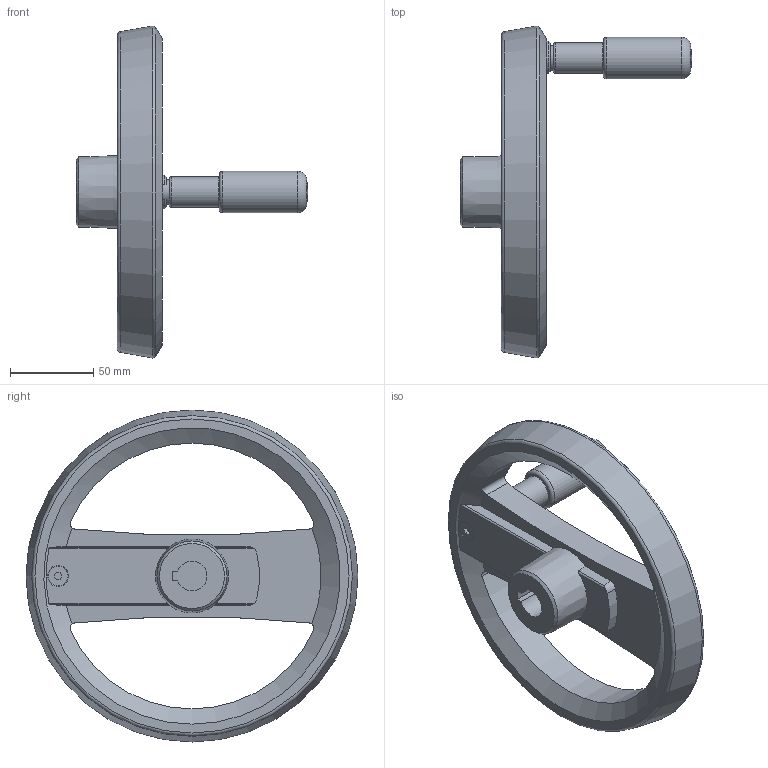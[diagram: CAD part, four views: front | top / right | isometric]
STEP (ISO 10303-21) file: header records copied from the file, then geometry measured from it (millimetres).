
FILE_DESCRIPTION( ( 'STEP AP203' ), '1' );
FILE_NAME( 'C:/Temp/Ganter_Step_05_03_2020/data/1_3/gn_924_7/gn_924_7_k/Handwheel with retractable handle GN 924.7-200-K18-R-SW (activated).stp', '2020-03-05T10:42:09', ( 'License CC BY-ND 4.0' ), ( 'CADENAS' ), ' ', 'PARTsolutions', ' ' );
FILE_SCHEMA( ( 'CONFIG_CONTROL_DESIGN' ) );
Length unit declared in the file: millimetre
Products named in the file (3): Handwheel with retractable handle GN 924.7-200-K18-R-SW (activated); _Umleggriff-Handrad GN 924.7-200-K18-R-SW-1; _Umleggriff-Handrad GN 924.7-200-K18-R-SW (90)-2
Assembly tree (2 placements, depth 2):
  Handwheel with retractable handle GN 924.7-200-K18-R-SW (activated)
    _Umleggriff-Handrad GN 924.7-200-K18-R-SW-1
    _Umleggriff-Handrad GN 924.7-200-K18-R-SW (90)-2
Bounding box: 139.2 x 199.58 x 199.58 mm (x, y, z)
Volume: 416327.1 mm3; surface area: 86098.5 mm2
Topology: 2 solids, 2 shells, 104 faces, 267 edges, 171 vertices
Faces by surface type: plane 44, cylinder 40, cone 10, torus 8, sphere 2
Full cylindrical faces by diameter (mm): 4 x4, 5 x1, 8 x1, 12 x1, 15 x1, 18.5 x1, 20 x1, 25 x2, 26.6 x1
Entity records: 3437 total; most frequent: CARTESIAN_POINT 955, DIRECTION 502, ORIENTED_EDGE 452, EDGE_CURVE 226, AXIS2_PLACEMENT_3D 206, VERTEX_POINT 164, EDGE_LOOP 147, FACE_OUTER_BOUND 124
